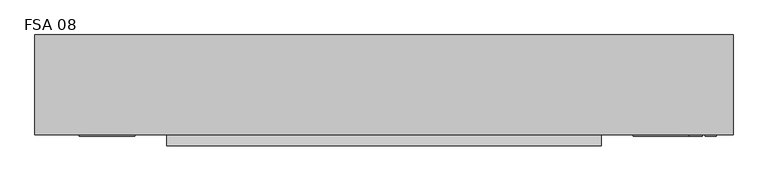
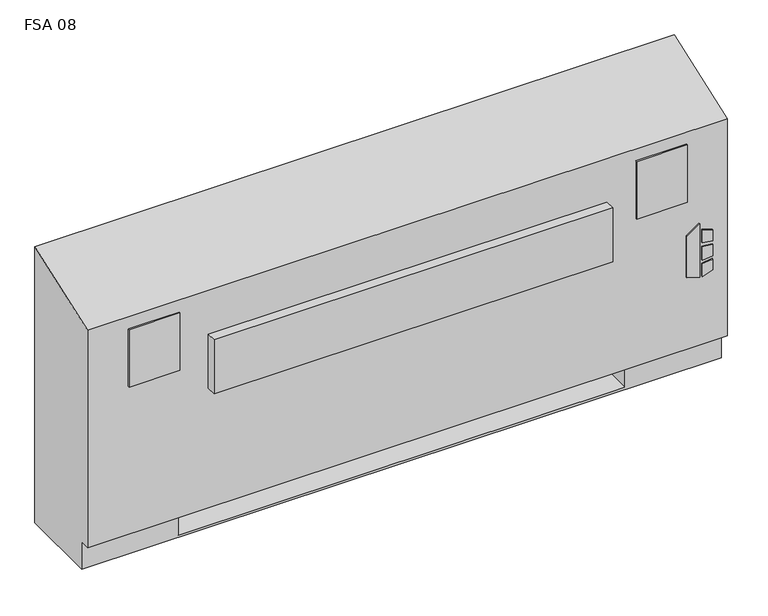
"""IFC4 building model written with IfcOpenShell, lengths in millimetres: proxy geometry, Vertical_Fan_Coil_Unit_-_FSA_-_IEC_-_2-Pipe_FS-FR_LH_2022 : FSA 08."""

import ifcopenshell
import ifcopenshell.guid

model = None  # the IFC model being written
_history = None  # IfcOwnerHistory: only IFC2X3 demands one
_inside = {}  # id of a spatial element -> (the spatial element, [elements in it])
_under = {}  # id of a project, library or spatial element -> (it, [spatial elements below it])
_declared = {}  # id of a project -> (the project, [libraries it declares])
_typed = {}  # id of a type object -> (the type object, [elements of that type])
_made_of = {}  # id of a material, layer set ... -> (it, [elements and type objects made of it])


def new_model(schema):
    """Start an empty IFC model of exactly this schema.

    Asked for "IFC4X3", IfcOpenShell would pick the latest addendum, in which some entities
    have other attributes; the version numbers below select the first issue.
    IFC2X3 requires an IfcOwnerHistory on every rooted entity: one is made here for all.
    """
    global model, _history
    if schema == "IFC4X3":
        model = ifcopenshell.file(schema_version=(4, 3, 0, 0))
    else:
        model = ifcopenshell.file(schema=schema)
    _inside.clear()
    _under.clear()
    _declared.clear()
    _typed.clear()
    _made_of.clear()
    _history = None
    if model.schema == "IFC2X3":
        org = make("IfcOrganization", Name="unknown")
        user = make(
            "IfcPersonAndOrganization",
            ThePerson=make("IfcPerson", FamilyName="unknown"),
            TheOrganization=org,
        )
        app = make(
            "IfcApplication",
            ApplicationDeveloper=org,
            Version="unknown",
            ApplicationFullName="unknown",
            ApplicationIdentifier="unknown",
        )
        _history = make(
            "IfcOwnerHistory",
            OwningUser=user,
            OwningApplication=app,
            ChangeAction="ADDED",
            CreationDate=0,
        )
    return model


def make(cls, **values):
    """One entity of the class cls with the attributes given. An attribute that is None is left unset."""
    return model.create_entity(
        cls, **{name: value for name, value in values.items() if value is not None}
    )


def rooted(cls, **values):
    """An entity with a GlobalId (a new one), such as an element, a storey or a relation."""
    return make(cls, GlobalId=ifcopenshell.guid.new(), OwnerHistory=_history, **values)


def si_unit(unit_type, name, prefix=None):
    """IfcSIUnit, for example si_unit("LENGTHUNIT", "METRE", prefix="MILLI")."""
    return make("IfcSIUnit", UnitType=unit_type, Prefix=prefix, Name=name)


def assignment(units):
    """IfcUnitAssignment: the units of a project."""
    return None if units is None else make("IfcUnitAssignment", Units=units)


def point(xyz):
    """IfcCartesianPoint."""
    return None if xyz is None else make("IfcCartesianPoint", Coordinates=xyz)


def direction(xyz):
    """IfcDirection."""
    return None if xyz is None else make("IfcDirection", DirectionRatios=xyz)


def frame(location, z_axis=None, x_axis=None):
    """IfcAxis2Placement3D, a coordinate frame: its origin and axes. An axis left out is left unset."""
    return make(
        "IfcAxis2Placement3D",
        Location=point(location),
        Axis=direction(z_axis),
        RefDirection=direction(x_axis),
    )


def frame_2d(location, x_axis=None):
    """IfcAxis2Placement2D, a coordinate frame in the plane: its origin and x axis."""
    return make(
        "IfcAxis2Placement2D", Location=point(location), RefDirection=direction(x_axis)
    )


def origin():
    """The frame at (0, 0, 0) with its axes left unset."""
    return frame((0.0, 0.0, 0.0))


def place(relative_to, where):
    """IfcLocalPlacement: puts the frame where relative to a parent placement (None: the world)."""
    return make(
        "IfcLocalPlacement", PlacementRelTo=relative_to, RelativePlacement=where
    )


def context(
    kind, dimensions, precision=None, world=None, true_north=None, identifier=None
):
    """IfcGeometricRepresentationContext, for example the 3D "Model" context."""
    return make(
        "IfcGeometricRepresentationContext",
        ContextIdentifier=identifier,
        ContextType=kind,
        CoordinateSpaceDimension=dimensions,
        Precision=precision,
        WorldCoordinateSystem=world,
        TrueNorth=true_north,
    )


def project(units=None, contexts=None):
    """IfcProject with its units and contexts."""
    return rooted(
        "IfcProject",
        Name="project",
        RepresentationContexts=contexts,
        UnitsInContext=assignment(units),
    )


def spatial(cls, under=None, at=None, **own):
    """A site, building, storey or space (cls), placed at a placement, below another one or the project."""
    s = rooted(cls, ObjectPlacement=at, **own)
    if under is not None:
        _under.setdefault(under.id(), (under, []))[1].append(s)
    return s


def polyline(points):
    """IfcPolyline through the points."""
    return make("IfcPolyline", Points=[point(p) for p in points])


def circle_curve(where, radius):
    """IfcCircle in the frame where."""
    return make("IfcCircle", Position=where, Radius=radius)


def trimmed(basis, trim1, trim2, sense, master):
    """IfcTrimmedCurve: the piece of a basis curve between two trims."""
    return make(
        "IfcTrimmedCurve",
        BasisCurve=basis,
        Trim1=trim1,
        Trim2=trim2,
        SenseAgreement=sense,
        MasterRepresentation=master,
    )


def segment(curve, same_sense, transition):
    """IfcCompositeCurveSegment."""
    return make(
        "IfcCompositeCurveSegment",
        Transition=transition,
        SameSense=same_sense,
        ParentCurve=curve,
    )


def composite_curve(segments, self_intersect=None):
    """IfcCompositeCurve: segments joined end to end."""
    return make("IfcCompositeCurve", Segments=segments, SelfIntersect=self_intersect)


def outline(outer, holes=None, kind="AREA"):
    """IfcArbitraryClosedProfileDef: a profile drawn as a closed curve; with holes, ...WithVoids."""
    if holes is None:
        return make("IfcArbitraryClosedProfileDef", ProfileType=kind, OuterCurve=outer)
    return make(
        "IfcArbitraryProfileDefWithVoids",
        ProfileType=kind,
        OuterCurve=outer,
        InnerCurves=holes,
    )


def extrude(swept, where, along, depth):
    """IfcExtrudedAreaSolid: the profile swept, set in the frame where, extruded along a direction by depth."""
    return make(
        "IfcExtrudedAreaSolid",
        SweptArea=swept,
        Position=where,
        ExtrudedDirection=direction(along),
        Depth=depth,
    )


def shape(context_of_items, identifier, shape_type, items):
    """IfcShapeRepresentation: the items that make up one representation, for example the "Body"."""
    return make(
        "IfcShapeRepresentation",
        ContextOfItems=context_of_items,
        RepresentationIdentifier=identifier,
        RepresentationType=shape_type,
        Items=items,
    )


def source(mapping_origin, context_of_items, identifier, shape_type, items):
    """IfcRepresentationMap: a shape defined once, which mapped items show again and again."""
    return make(
        "IfcRepresentationMap",
        MappingOrigin=mapping_origin,
        MappedRepresentation=shape(context_of_items, identifier, shape_type, items),
    )


def transform(
    local_origin,
    x_axis=None,
    y_axis=None,
    z_axis=None,
    scale=None,
    scale2=None,
    scale3=None,
    uniform=True,
):
    """IfcCartesianTransformationOperator3D, or its non-uniform kind. x_axis, y_axis, z_axis: its Axis1, 2, 3."""
    if uniform:
        return make(
            "IfcCartesianTransformationOperator3D",
            Axis1=direction(x_axis),
            Axis2=direction(y_axis),
            LocalOrigin=point(local_origin),
            Scale=scale,
            Axis3=direction(z_axis),
        )
    return make(
        "IfcCartesianTransformationOperator3DnonUniform",
        Axis1=direction(x_axis),
        Axis2=direction(y_axis),
        LocalOrigin=point(local_origin),
        Scale=scale,
        Axis3=direction(z_axis),
        Scale2=scale2,
        Scale3=scale3,
    )


def mapped(mapping_source, mapping_target):
    """IfcMappedItem: shows the shape of a source again, moved by a transform."""
    return make(
        "IfcMappedItem", MappingSource=mapping_source, MappingTarget=mapping_target
    )


def made_of(thing, what):
    """Note that an element or type object is made of a material, layer set ...; save() writes the relation."""
    if what is not None:
        _made_of.setdefault(what.id(), (what, []))[1].append(thing)
    return thing


def element(
    cls,
    number,
    at=None,
    inside=None,
    cuts=None,
    type_object=None,
    material=None,
    context=None,
    identifier="Body",
    shape_type=None,
    held_by="IfcProductDefinitionShape",
    body=None,
    shapes=None,
    **own,
):
    """One element of the class cls, such as IfcWall. Its Tag is "e" and its number.

    at: its placement. inside: the storey or other place that contains it. cuts: it is an
    opening in that element (IfcRelVoidsElement). A single representation is given by context,
    identifier, shape_type and body (its items); several are given by shapes. held_by: the class
    of the entity that holds the representations. save() writes the other relations.
    """
    e = rooted(cls, Tag="e%d" % number, ObjectPlacement=at, **own)
    if body is not None:
        shapes = [shape(context, identifier, shape_type, body)]
    if shapes is not None:
        e.Representation = make(held_by, Representations=shapes)
    if inside is not None:
        _inside.setdefault(inside.id(), (inside, []))[1].append(e)
    if cuts is not None:
        rooted(
            "IfcRelVoidsElement", RelatingBuildingElement=cuts, RelatedOpeningElement=e
        )
    if type_object is not None:
        _typed.setdefault(type_object.id(), (type_object, []))[1].append(e)
    return made_of(e, material)


def aggregate(whole, parts):
    """IfcRelAggregates: a whole, such as a stair, and the parts it consists of."""
    return rooted("IfcRelAggregates", RelatingObject=whole, RelatedObjects=parts)


def save(model, path):
    """Write the relations noted so far, then the file.

    IfcRelAggregates (storeys below a building ...), IfcRelContainedInSpatialStructure (elements
    in a storey), IfcRelDefinesByType, IfcRelAssociatesMaterial and IfcRelDeclares: one each for
    every whole, place, type object, material and project.
    """
    for whole, parts in _under.values():
        aggregate(whole, parts)
    for where, things in _inside.values():
        rooted(
            "IfcRelContainedInSpatialStructure",
            RelatedElements=things,
            RelatingStructure=where,
        )
    for kind, things in _typed.values():
        rooted("IfcRelDefinesByType", RelatedObjects=things, RelatingType=kind)
    for what, things in _made_of.values():
        rooted("IfcRelAssociatesMaterial", RelatedObjects=things, RelatingMaterial=what)
    for by, libraries in _declared.values():
        rooted("IfcRelDeclares", RelatingContext=by, RelatedDefinitions=libraries)
    model.write(path)


def plane_surface(at):
    """IfcPlane: the flat surface through the origin of the frame at, square to its z axis."""
    return make("IfcPlane", Position=at)


def revolved_surface(curve, axis_point, axis_direction):
    """IfcSurfaceOfRevolution: the curve turned about the line through axis_point along axis_direction."""
    return make(
        "IfcSurfaceOfRevolution",
        SweptCurve=make("IfcArbitraryOpenProfileDef", ProfileType="CURVE", Curve=curve),
        AxisPosition=make("IfcAxis1Placement", Location=point(axis_point), Axis=direction(axis_direction)),
    )


def advanced_brep(points, edges, surfaces, faces):
    """IfcAdvancedBrep: a solid bounded by faces that lie on surfaces and meet in shared edges.

    An edge is (start, end): straight between two places in points (the first is 0);
    or (start, end, curve); or (start, end, curve, False) where it runs against its curve.
    A face is (place in surfaces, loops), or (place, loops, False) where it looks against
    its surface's normal. A loop lists edges by number (the first is 1), with a minus sign
    where the edge is run from its end to its start. The first loop is the outer one.
    """
    corners = [point(p) for p in points]
    vertices = [make("IfcVertexPoint", VertexGeometry=c) for c in corners]
    made = []
    for start, end, *more in edges:
        made.append(
            make(
                "IfcEdgeCurve",
                EdgeStart=vertices[start],
                EdgeEnd=vertices[end],
                EdgeGeometry=more[0] if more else make("IfcPolyline", Points=[corners[start], corners[end]]),
                SameSense=more[1] if len(more) > 1 else True,
            )
        )
    hull = []
    for where, loops, *sense in faces:
        bounds = []
        for j, loop in enumerate(loops):
            ring = [make("IfcOrientedEdge", EdgeElement=made[abs(k) - 1], Orientation=k > 0) for k in loop]
            bounds.append(
                make(
                    "IfcFaceOuterBound" if j == 0 else "IfcFaceBound",
                    Bound=make("IfcEdgeLoop", EdgeList=ring),
                    Orientation=True,
                )
            )
        hull.append(make("IfcAdvancedFace", Bounds=bounds, FaceSurface=surfaces[where], SameSense=sense[0] if sense else True))
    return make("IfcAdvancedBrep", Outer=make("IfcClosedShell", CfsFaces=hull))


def fsa_08_6ecd86e4(model_context):
    return source(origin(), model_context, "Body", "SolidModel", [
        extrude(outline(polyline([(263.9480703, 849.3868862), (254.0, 881.5602728), (396.1709244, 881.5602728), (373.1489183, 849.3868862), (263.9480703, 849.3868862)])), frame((0.0, 12.7, 0.0), z_axis=(0.0, 1.0, 0.0), x_axis=(0.0, 0.0, 1.0)), (0.0, 0.0, 1.0), 3.175),
        extrude(outline(polyline([(342.9473557, 888.3186058), (339.7449632, 914.4), (368.9738042, 914.4), (377.0382193, 888.3186058), (342.9473557, 888.3186058)])), frame((0.0, 12.7, 0.0), z_axis=(0.0, 1.0, 0.0), x_axis=(0.0, 0.0, 1.0)), (0.0, 0.0, 1.0), 3.175),
        extrude(outline(polyline([(291.0838288, 914.4), (287.4183279, 888.3186058), (254.0, 888.3186058), (262.6342372, 914.4), (291.0838288, 914.4)])), frame((0.0, 12.7, 0.0), z_axis=(0.0, 1.0, 0.0), x_axis=(0.0, 0.0, 1.0)), (0.0, 0.0, 1.0), 3.175),
        extrude(outline(polyline([(330.3989903, 914.4), (332.6808166, 888.3186058), (296.7432681, 888.3186058), (299.4845331, 914.4), (330.3989903, 914.4)])), frame((0.0, 12.7, 0.0), z_axis=(0.0, 1.0, 0.0), x_axis=(0.0, 0.0, 1.0)), (0.0, 0.0, 1.0), 3.175),
        extrude(outline(polyline([(831.85, 223.266), (831.85, 81.534), (711.2, 81.534), (711.2, 223.266), (831.85, 223.266)])), frame((0.0, 0.0, 327.025), z_axis=(0.0, 0.0, 1.0), x_axis=(1.0, 0.0, 0.0)), (0.0, 0.0, 1.0), 260.35),
        extrude(outline(polyline([(-419.1, 12.7), (-546.1, 12.7), (-546.1, 15.875), (-419.1, 15.875), (-419.1, 12.7)])), frame((0.0, 0.0, 463.55), z_axis=(0.0, 0.0, 1.0), x_axis=(1.0, 0.0, 0.0)), (0.0, 0.0, 1.0), 152.4),
        extrude(outline(polyline([(850.9, 12.7), (723.9, 12.7), (723.9, 15.875), (850.9, 15.875), (850.9, 12.7)])), frame((0.0, 0.0, 463.55), z_axis=(0.0, 0.0, 1.0), x_axis=(1.0, 0.0, 0.0)), (0.0, 0.0, 1.0), 152.4),
        extrude(outline(composite_curve([segment(trimmed(circle_curve(frame_2d((-469.9, 130.175)), 9.525), [point((-479.425, 130.175))], [point((-460.375, 130.175))], False, "CARTESIAN"), True, "CONTINUOUS"), segment(trimmed(circle_curve(frame_2d((-469.9, 130.175)), 9.525), [point((-460.375, 130.175))], [point((-479.425, 130.175))], False, "CARTESIAN"), True, "CONTINUOUS")], self_intersect=False)), frame((0.0, 0.0, 101.6), z_axis=(0.0, 0.0, 1.0), x_axis=(1.0, 0.0, 0.0)), (0.0, 0.0, 1.0), 25.4),
        extrude(outline(polyline([(-571.5, 63.5), (-571.5, 196.85), (-406.4, 196.85), (-406.4, 63.5), (-571.5, 63.5)])), frame((0.0, 0.0, 127.0), z_axis=(0.0, 0.0, 1.0), x_axis=(1.0, 0.0, 0.0)), (0.0, 0.0, 1.0), 50.8),
        extrude(outline(polyline([(650.875, -9.525), (-346.075, -9.525), (-346.075, 15.875), (650.875, 15.875), (650.875, -9.525)])), frame((0.0, 0.0, 389.3009245), z_axis=(0.0, 0.0, 1.0), x_axis=(1.0, 0.0, 0.0)), (0.0, 0.0, 1.0), 142.875),
        extrude(outline(composite_curve([segment(trimmed(circle_curve(frame_2d((109.347, 456.819)), 7.9375), [point((109.347, 464.7565))], [point((109.347, 448.8815))], False, "CARTESIAN"), True, "CONTINUOUS"), segment(trimmed(circle_curve(frame_2d((109.347, 456.819)), 7.9375), [point((109.347, 448.8815))], [point((109.347, 464.7565))], False, "CARTESIAN"), True, "CONTINUOUS")], self_intersect=False)), frame((-457.2, 0.0, 0.0), z_axis=(1.0, 0.0, 0.0), x_axis=(0.0, 1.0, 0.0)), (0.0, 0.0, 1.0), 50.8),
        extrude(outline(composite_curve([segment(trimmed(circle_curve(frame_2d((157.4546, 429.4632)), 7.9375), [point((157.4546, 437.4007))], [point((157.4546, 421.5257))], False, "CARTESIAN"), True, "CONTINUOUS"), segment(trimmed(circle_curve(frame_2d((157.4546, 429.4632)), 7.9375), [point((157.4546, 421.5257))], [point((157.4546, 437.4007))], False, "CARTESIAN"), True, "CONTINUOUS")], self_intersect=False)), frame((-457.2, 0.0, 0.0), z_axis=(1.0, 0.0, 0.0), x_axis=(0.0, 1.0, 0.0)), (0.0, 0.0, 1.0), 50.8),
        advanced_brep(
        [(-647.7, 244.475, 0.0), (952.5, 244.475, 0.0), (952.5, 41.275, 0.0), (-647.7, 41.275, 0.0), (-647.7, 244.475, 730.25), (952.5, 244.475, 730.25), (711.2, 244.475, 73.025), (939.8, 244.475, 73.025), (939.8, 244.475, 654.05), (711.2, 244.475, 654.05), (711.2, 244.475, 414.8650565), (739.775, 244.475, 414.8650565), (739.775, 244.475, 385.2349435), (711.2, 244.475, 385.2349435), (711.2, 244.475, 287.3375), (739.775, 244.475, 287.3375), (739.775, 244.475, 258.7625), (711.2, 244.475, 258.7625), (711.2, 244.475, 141.2875), (739.775, 244.475, 141.2875), (739.775, 244.475, 112.7125), (711.2, 244.475, 112.7125), (-406.4, 244.475, 654.05), (-635.0, 244.475, 654.05), (-635.0, 244.475, 73.025), (-406.4, 244.475, 73.025), (-406.4, 244.475, 112.7125), (-434.975, 244.475, 112.7125), (-434.975, 244.475, 141.2875), (-406.4, 244.475, 141.2875), (-406.4, 244.475, 258.7625), (-434.975, 244.475, 258.7625), (-434.975, 244.475, 287.3375), (-406.4, 244.475, 287.3375), (-406.4, 244.475, 385.2349435), (-434.975, 244.475, 385.2349435), (-434.975, 244.475, 414.8650565), (-406.4, 244.475, 414.8650565), (729.4626, 244.475, 127.0), (718.3374, 244.475, 127.0), (729.4626, 244.475, 400.05), (718.3374, 244.475, 400.05), (729.4626, 244.475, 273.05), (718.3374, 244.475, 273.05), (-413.5374, 244.475, 127.0), (-424.6626, 244.475, 127.0), (-413.5374, 244.475, 273.05), (-424.6626, 244.475, 273.05), (-413.5374, 244.475, 400.05), (-424.6626, 244.475, 400.05), (-647.7, 41.275, 73.025), (-647.7, 15.875, 73.025), (-647.7, 15.875, 647.7), (952.5, 15.875, 73.025), (952.5, 15.875, 647.7), (952.5, 41.275, 73.025), (-406.4, 41.275, 73.025), (-406.4, 225.425, 73.025), (711.2, 225.425, 73.025), (711.2, 41.275, 73.025), (711.2, 41.275, 6.35), (-406.4, 41.275, 6.35), (711.2, 41.275, 654.05), (939.8, 41.275, 654.05), (939.8, 41.275, 73.025), (711.2, 41.275, 73.025), (-406.4, 41.275, 654.05), (-406.4, 41.275, 73.025), (-635.0, 41.275, 73.025), (-635.0, 41.275, 654.05), (711.2, 225.425, 73.025), (711.2, 238.125, 112.7125), (711.2, 238.125, 141.2875), (711.2, 238.125, 258.7625), (711.2, 238.125, 287.3375), (711.2, 238.125, 385.2349435), (711.2, 238.125, 414.8650565), (-406.4, 225.425, 73.025), (-406.4, 238.125, 414.8650565), (-406.4, 238.125, 385.2349435), (-406.4, 238.125, 287.3375), (-406.4, 238.125, 258.7625), (-406.4, 238.125, 141.2875), (-406.4, 238.125, 112.7125), (-406.4, 225.425, 6.35), (711.2, 225.425, 6.35), (739.775, 238.125, 112.7125), (739.775, 238.125, 141.2875), (718.3374, 238.125, 127.0), (729.4626, 238.125, 127.0), (739.775, 238.125, 258.7625), (739.775, 238.125, 287.3375), (718.3374, 238.125, 273.05), (729.4626, 238.125, 273.05), (739.775, 238.125, 385.2349435), (739.775, 238.125, 414.8650565), (718.3374, 238.125, 400.05), (729.4626, 238.125, 400.05), (-434.975, 238.125, 141.2875), (-434.975, 238.125, 112.7125), (-424.6626, 238.125, 127.0), (-413.5374, 238.125, 127.0), (-434.975, 238.125, 287.3375), (-434.975, 238.125, 258.7625), (-424.6626, 238.125, 273.05), (-413.5374, 238.125, 273.05), (-434.975, 238.125, 414.8650565), (-434.975, 238.125, 385.2349435), (-424.6626, 238.125, 400.05), (-413.5374, 238.125, 400.05)],
        [
            (0, 1),
            (1, 2),
            (2, 3),
            (3, 0),
            (0, 4),
            (4, 5),
            (5, 1),
            (6, 7),
            (7, 8),
            (8, 9),
            (9, 10),
            (10, 11),
            (11, 12),
            (12, 13),
            (13, 14),
            (14, 15),
            (15, 16),
            (16, 17),
            (17, 18),
            (18, 19),
            (19, 20),
            (20, 21),
            (21, 6),
            (22, 23),
            (23, 24),
            (24, 25),
            (25, 26),
            (26, 27),
            (27, 28),
            (28, 29),
            (29, 30),
            (30, 31),
            (31, 32),
            (32, 33),
            (33, 34),
            (34, 35),
            (35, 36),
            (36, 37),
            (37, 22),
            (38, 39, circle_curve(frame((723.9, 244.475, 127.0), z_axis=(0.0, -1.0, 0.0), x_axis=(-1.0, 0.0, 0.0)), 5.5626)),
            (39, 38, circle_curve(frame((723.9, 244.475, 127.0), z_axis=(0.0, -1.0, 0.0), x_axis=(-1.0, 0.0, 0.0)), 5.5626)),
            (40, 41, circle_curve(frame((723.9, 244.475, 400.05), z_axis=(0.0, -1.0, 0.0), x_axis=(-1.0, 0.0, 0.0)), 5.5626)),
            (41, 40, circle_curve(frame((723.9, 244.475, 400.05), z_axis=(0.0, -1.0, 0.0), x_axis=(-1.0, 0.0, 0.0)), 5.5626)),
            (42, 43, circle_curve(frame((723.9, 244.475, 273.05), z_axis=(0.0, -1.0, 0.0), x_axis=(-1.0, 0.0, 0.0)), 5.5626)),
            (43, 42, circle_curve(frame((723.9, 244.475, 273.05), z_axis=(0.0, -1.0, 0.0), x_axis=(-1.0, 0.0, 0.0)), 5.5626)),
            (44, 45, circle_curve(frame((-419.1, 244.475, 127.0), z_axis=(0.0, -1.0, 0.0), x_axis=(-1.0, 0.0, 0.0)), 5.5626)),
            (45, 44, circle_curve(frame((-419.1, 244.475, 127.0), z_axis=(0.0, -1.0, 0.0), x_axis=(-1.0, 0.0, 0.0)), 5.5626)),
            (46, 47, circle_curve(frame((-419.1, 244.475, 273.05), z_axis=(0.0, -1.0, 0.0), x_axis=(-1.0, 0.0, 0.0)), 5.5626)),
            (47, 46, circle_curve(frame((-419.1, 244.475, 273.05), z_axis=(0.0, -1.0, 0.0), x_axis=(-1.0, 0.0, 0.0)), 5.5626)),
            (48, 49, circle_curve(frame((-419.1, 244.475, 400.05), z_axis=(0.0, -1.0, 0.0), x_axis=(-1.0, 0.0, 0.0)), 5.5626)),
            (49, 48, circle_curve(frame((-419.1, 244.475, 400.05), z_axis=(0.0, -1.0, 0.0), x_axis=(-1.0, 0.0, 0.0)), 5.5626)),
            (3, 50),
            (50, 51),
            (51, 52),
            (52, 4),
            (51, 53),
            (53, 54),
            (54, 52),
            (5, 54),
            (53, 55),
            (55, 2),
            (50, 56),
            (56, 57),
            (57, 58),
            (58, 59),
            (59, 55),
            (59, 60),
            (60, 61),
            (61, 56),
            (62, 63),
            (63, 64),
            (64, 65),
            (65, 62),
            (66, 67),
            (67, 68),
            (68, 69),
            (69, 66),
            (65, 70),
            (70, 6),
            (21, 71),
            (71, 72),
            (72, 18),
            (17, 73),
            (73, 74),
            (74, 14),
            (13, 75),
            (75, 76),
            (76, 10),
            (9, 62),
            (64, 7),
            (63, 8),
            (69, 23),
            (22, 66),
            (68, 24),
            (67, 77),
            (77, 25),
            (37, 78),
            (78, 79),
            (79, 34),
            (33, 80),
            (80, 81),
            (81, 30),
            (29, 82),
            (82, 83),
            (83, 26),
            (57, 84),
            (84, 85),
            (85, 58),
            (85, 60),
            (84, 61),
            (71, 86),
            (86, 87),
            (87, 72),
            (88, 89, circle_curve(frame((723.9, 238.125, 127.0), z_axis=(0.0, 1.0, 0.0), x_axis=(-1.0, 0.0, 0.0)), 5.5626)),
            (89, 88, circle_curve(frame((723.9, 238.125, 127.0), z_axis=(0.0, 1.0, 0.0), x_axis=(-1.0, 0.0, 0.0)), 5.5626)),
            (73, 90),
            (90, 91),
            (91, 74),
            (92, 93, circle_curve(frame((723.9, 238.125, 273.05), z_axis=(0.0, 1.0, 0.0), x_axis=(-1.0, 0.0, 0.0)), 5.5626)),
            (93, 92, circle_curve(frame((723.9, 238.125, 273.05), z_axis=(0.0, 1.0, 0.0), x_axis=(-1.0, 0.0, 0.0)), 5.5626)),
            (75, 94),
            (94, 95),
            (95, 76),
            (96, 97, circle_curve(frame((723.9, 238.125, 400.05), z_axis=(0.0, 1.0, 0.0), x_axis=(-1.0, 0.0, 0.0)), 5.5626)),
            (97, 96, circle_curve(frame((723.9, 238.125, 400.05), z_axis=(0.0, 1.0, 0.0), x_axis=(-1.0, 0.0, 0.0)), 5.5626)),
            (98, 99),
            (99, 83),
            (82, 98),
            (100, 101, circle_curve(frame((-419.1, 238.125, 127.0), z_axis=(0.0, 1.0, 0.0), x_axis=(-1.0, 0.0, 0.0)), 5.5626)),
            (101, 100, circle_curve(frame((-419.1, 238.125, 127.0), z_axis=(0.0, 1.0, 0.0), x_axis=(-1.0, 0.0, 0.0)), 5.5626)),
            (102, 103),
            (103, 81),
            (80, 102),
            (104, 105, circle_curve(frame((-419.1, 238.125, 273.05), z_axis=(0.0, 1.0, 0.0), x_axis=(-1.0, 0.0, 0.0)), 5.5626)),
            (105, 104, circle_curve(frame((-419.1, 238.125, 273.05), z_axis=(0.0, 1.0, 0.0), x_axis=(-1.0, 0.0, 0.0)), 5.5626)),
            (106, 107),
            (107, 79),
            (78, 106),
            (108, 109, circle_curve(frame((-419.1, 238.125, 400.05), z_axis=(0.0, 1.0, 0.0), x_axis=(-1.0, 0.0, 0.0)), 5.5626)),
            (109, 108, circle_curve(frame((-419.1, 238.125, 400.05), z_axis=(0.0, 1.0, 0.0), x_axis=(-1.0, 0.0, 0.0)), 5.5626)),
            (87, 19),
            (86, 20),
            (91, 15),
            (90, 16),
            (95, 11),
            (94, 12),
            (28, 98),
            (99, 27),
            (32, 102),
            (103, 31),
            (36, 106),
            (107, 35),
            (88, 39),
            (38, 89),
            (96, 41),
            (40, 97),
            (92, 43),
            (42, 93),
            (100, 45),
            (44, 101),
            (104, 47),
            (46, 105),
            (108, 49),
            (48, 109),
        ],
        [
            plane_surface(frame((-647.7, 244.475, 0.0), z_axis=(0.0, 0.0, -1.0), x_axis=(1.0, 0.0, 0.0))),
            plane_surface(frame((952.5, 244.475, 730.25), z_axis=(0.0, 1.0, 0.0), x_axis=(0.0, 0.0, -1.0))),
            plane_surface(frame((-647.7, 244.475, 730.25), z_axis=(-1.0, 0.0, 0.0), x_axis=(0.0, 0.0, -1.0))),
            plane_surface(frame((-647.7, 15.875, 730.25), z_axis=(0.0, -1.0, 0.0), x_axis=(0.0, 0.0, -1.0))),
            plane_surface(frame((952.5, 15.875, 730.25), z_axis=(1.0, 0.0, 0.0), x_axis=(0.0, 0.0, -1.0))),
            plane_surface(frame((-647.7, 15.875, 73.025), z_axis=(0.0, 0.0, -1.0), x_axis=(1.0, 0.0, 0.0))),
            plane_surface(frame((-647.7, 41.275, 73.025), z_axis=(0.0, -1.0, 0.0), x_axis=(1.0, 0.0, 0.0))),
            plane_surface(frame((711.2, 41.275, 654.05), z_axis=(0.0, 1.0, 0.0), x_axis=(0.0, 0.0, -1.0))),
            plane_surface(frame((711.2, 41.275, 654.05), z_axis=(1.0, 0.0, 0.0), x_axis=(0.0, 1.0, 0.0))),
            plane_surface(frame((711.2, 41.275, 73.025), z_axis=(0.0, 0.0, 1.0), x_axis=(0.0, 1.0, 0.0))),
            plane_surface(frame((939.8, 41.275, 73.025), z_axis=(-1.0, 0.0, 0.0), x_axis=(0.0, 1.0, 0.0))),
            plane_surface(frame((939.8, 41.275, 654.05), z_axis=(0.0, 0.0, -1.0), x_axis=(0.0, 1.0, 0.0))),
            plane_surface(frame((-406.4, 41.275, 654.05), z_axis=(0.0, 0.0, -1.0), x_axis=(0.0, 1.0, 0.0))),
            plane_surface(frame((-635.0, 41.275, 654.05), z_axis=(1.0, 0.0, 0.0), x_axis=(0.0, 1.0, 0.0))),
            plane_surface(frame((-635.0, 41.275, 73.025), z_axis=(0.0, 0.0, 1.0), x_axis=(0.0, 1.0, 0.0))),
            plane_surface(frame((-406.4, 41.275, 73.025), z_axis=(-1.0, 0.0, 0.0), x_axis=(0.0, 1.0, 0.0))),
            plane_surface(frame((711.2, 225.425, 73.025), z_axis=(0.0, -1.0, 0.0), x_axis=(0.0, 0.0, -1.0))),
            plane_surface(frame((711.2, 225.425, 73.025), z_axis=(-1.0, 0.0, 0.0), x_axis=(0.0, -1.0, 0.0))),
            plane_surface(frame((711.2, 225.425, 6.35), z_axis=(0.0, 0.0, 1.0), x_axis=(0.0, -1.0, 0.0))),
            plane_surface(frame((-406.4, 225.425, 6.35), z_axis=(1.0, 0.0, 0.0), x_axis=(0.0, -1.0, 0.0))),
            plane_surface(frame((739.775, 238.125, 141.2875), z_axis=(0.0, -1.0, 0.0), x_axis=(-1.0, 0.0, 0.0))),
            plane_surface(frame((711.2, 244.475, 141.2875), z_axis=(0.0, 0.0, 1.0), x_axis=(0.0, -1.0, 0.0))),
            plane_surface(frame((739.775, 244.475, 141.2875), z_axis=(1.0, 0.0, 0.0), x_axis=(0.0, -1.0, 0.0))),
            plane_surface(frame((739.775, 244.475, 112.7125), z_axis=(0.0, 0.0, -1.0), x_axis=(0.0, -1.0, 0.0))),
            plane_surface(frame((711.2, 244.475, 287.3375), z_axis=(0.0, 0.0, 1.0), x_axis=(0.0, -1.0, 0.0))),
            plane_surface(frame((739.775, 244.475, 287.3375), z_axis=(1.0, 0.0, 0.0), x_axis=(0.0, -1.0, 0.0))),
            plane_surface(frame((739.775, 244.475, 258.7625), z_axis=(0.0, 0.0, -1.0), x_axis=(0.0, -1.0, 0.0))),
            plane_surface(frame((711.2, 244.475, 414.8650565), z_axis=(0.0, 0.0, 1.0), x_axis=(0.0, -1.0, 0.0))),
            plane_surface(frame((739.775, 244.475, 414.8650565), z_axis=(1.0, 0.0, 0.0), x_axis=(0.0, -1.0, 0.0))),
            plane_surface(frame((739.775, 244.475, 385.2349435), z_axis=(0.0, 0.0, -1.0), x_axis=(0.0, -1.0, 0.0))),
            plane_surface(frame((-434.975, 244.475, 141.2875), z_axis=(0.0, 0.0, 1.0), x_axis=(0.0, -1.0, 0.0))),
            plane_surface(frame((-406.4, 244.475, 112.7125), z_axis=(0.0, 0.0, -1.0), x_axis=(0.0, -1.0, 0.0))),
            plane_surface(frame((-434.975, 244.475, 112.7125), z_axis=(-1.0, 0.0, 0.0), x_axis=(0.0, -1.0, 0.0))),
            plane_surface(frame((-434.975, 244.475, 287.3375), z_axis=(0.0, 0.0, 1.0), x_axis=(0.0, -1.0, 0.0))),
            plane_surface(frame((-406.4, 244.475, 258.7625), z_axis=(0.0, 0.0, -1.0), x_axis=(0.0, -1.0, 0.0))),
            plane_surface(frame((-434.975, 244.475, 258.7625), z_axis=(-1.0, 0.0, 0.0), x_axis=(0.0, -1.0, 0.0))),
            plane_surface(frame((-434.975, 244.475, 414.8650565), z_axis=(0.0, 0.0, 1.0), x_axis=(0.0, -1.0, 0.0))),
            plane_surface(frame((-406.4, 244.475, 385.2349435), z_axis=(0.0, 0.0, -1.0), x_axis=(0.0, -1.0, 0.0))),
            plane_surface(frame((-434.975, 244.475, 385.2349435), z_axis=(-1.0, 0.0, 0.0), x_axis=(0.0, -1.0, 0.0))),
            revolved_surface(polyline([(718.3374, 238.125, 127.0), (718.3374, 244.475, 127.0)]), (723.9, 244.475, 127.0), (0.0, -1.0, 0.0)),
            revolved_surface(polyline([(718.3374, 238.125, 400.05), (718.3374, 244.475, 400.05)]), (723.9, 244.475, 400.05), (0.0, -1.0, 0.0)),
            revolved_surface(polyline([(718.3374, 238.125, 273.05), (718.3374, 244.475, 273.05)]), (723.9, 244.475, 273.05), (0.0, -1.0, 0.0)),
            revolved_surface(polyline([(-424.6626, 238.125, 127.0), (-424.6626, 244.475, 127.0)]), (-419.1, 244.475, 127.0), (0.0, -1.0, 0.0)),
            revolved_surface(polyline([(-424.6626, 238.125, 273.05), (-424.6626, 244.475, 273.05)]), (-419.1, 244.475, 273.05), (0.0, -1.0, 0.0)),
            revolved_surface(polyline([(-424.6626, 238.125, 400.05), (-424.6626, 244.475, 400.05)]), (-419.1, 244.475, 400.05), (0.0, -1.0, 0.0)),
            plane_surface(frame((-647.7, 244.475, 730.25), z_axis=(0.0, -0.33964446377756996, 0.9405538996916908), x_axis=(1.0, 0.0, 0.0))),
        ],
        [
            (0, [[1, 2, 3, 4]]),
            (1, [[-1, 5, 6, 7], [8, 9, 10, 11, 12, 13, 14, 15, 16, 17, 18, 19, 20, 21, 22, 23], [24, 25, 26, 27, 28, 29, 30, 31, 32, 33, 34, 35, 36, 37, 38, 39], [40, 41], [42, 43], [44, 45], [46, 47], [48, 49], [50, 51]]),
            (2, [[-5, -4, 52, 53, 54, 55]]),
            (3, [[56, 57, 58, -54]]),
            (4, [[-7, 59, -57, 60, 61, -2]]),
            (5, [[-53, 62, 63, 64, 65, 66, -60, -56]]),
            (6, [[-3, -61, -66, 67, 68, 69, -62, -52]]),
            (7, [[70, 71, 72, 73]]),
            (7, [[74, 75, 76, 77]]),
            (8, [[-73, 78, 79, -23, 80, 81, 82, -19, 83, 84, 85, -15, 86, 87, 88, -11, 89]]),
            (9, [[-72, 90, -8, -79, -78]]),
            (10, [[-71, 91, -9, -90]]),
            (11, [[-70, -89, -10, -91]]),
            (12, [[-77, 92, -24, 93]]),
            (13, [[-76, 94, -25, -92]]),
            (14, [[-75, 95, 96, -26, -94]]),
            (15, [[-74, -93, -39, 97, 98, 99, -35, 100, 101, 102, -31, 103, 104, 105, -27, -96, -95]]),
            (16, [[-64, 106, 107, 108]]),
            (17, [[-108, 109, -67, -65]]),
            (18, [[-107, 110, -68, -109]]),
            (19, [[-106, -63, -69, -110]]),
            (20, [[111, 112, 113, -81], [114, 115]]),
            (20, [[116, 117, 118, -84], [119, 120]]),
            (20, [[121, 122, 123, -87], [124, 125]]),
            (20, [[126, 127, -104, 128], [129, 130]]),
            (20, [[131, 132, -101, 133], [134, 135]]),
            (20, [[136, 137, -98, 138], [139, 140]]),
            (21, [[-113, 141, -20, -82]]),
            (22, [[-112, 142, -21, -141]]),
            (23, [[-111, -80, -22, -142]]),
            (24, [[-118, 143, -16, -85]]),
            (25, [[-117, 144, -17, -143]]),
            (26, [[-116, -83, -18, -144]]),
            (27, [[-123, 145, -12, -88]]),
            (28, [[-122, 146, -13, -145]]),
            (29, [[-121, -86, -14, -146]]),
            (30, [[-128, -103, -30, 147]]),
            (31, [[-127, 148, -28, -105]]),
            (32, [[-126, -147, -29, -148]]),
            (33, [[-133, -100, -34, 149]]),
            (34, [[-132, 150, -32, -102]]),
            (35, [[-131, -149, -33, -150]]),
            (36, [[-138, -97, -38, 151]]),
            (37, [[-137, 152, -36, -99]]),
            (38, [[-136, -151, -37, -152]]),
            (39, [[153, -40, 154, -114]]),
            (39, [[-153, -115, -154, -41]]),
            (40, [[155, -42, 156, -124]]),
            (40, [[-155, -125, -156, -43]]),
            (41, [[157, -44, 158, -119]]),
            (41, [[-157, -120, -158, -45]]),
            (42, [[159, -46, 160, -129]]),
            (42, [[-159, -130, -160, -47]]),
            (43, [[161, -48, 162, -134]]),
            (43, [[-161, -135, -162, -49]]),
            (44, [[163, -50, 164, -139]]),
            (44, [[-163, -140, -164, -51]]),
            (45, [[-6, -55, -58, -59]]),
        ],
    ),
    ])


if __name__ == "__main__":
    model = new_model("IFC4")
    model_context = context("Model", 3, world=origin())
    ifc_project = project(units=[si_unit("LENGTHUNIT", "METRE", prefix="MILLI")], contexts=[model_context])
    site = spatial("IfcSite", under=ifc_project)
    building = spatial("IfcBuilding", under=site)
    placement = place(None, origin())
    fsa_08_shape = fsa_08_6ecd86e4(model_context)
    element("IfcBuildingElementProxy", 1, Name="Vertical_Fan_Coil_Unit_-_FSA_-_IEC_-_2-Pipe_FS-FR_LH_2022 : FSA 08", ObjectType="Vertical_Fan_Coil_Unit_-_FSA_-_IEC_-_2-Pipe_FS-FR_LH_2022 : FSA 08", at=placement, inside=building, context=model_context, shape_type="MappedRepresentation", body=[
        mapped(fsa_08_shape, transform((0.0, 0.0, 0.0), x_axis=(1.0, 0.0, 0.0), y_axis=(0.0, 1.0, 0.0), z_axis=(0.0, 0.0, 1.0))),
    ])
    save(model, "model.ifc")
